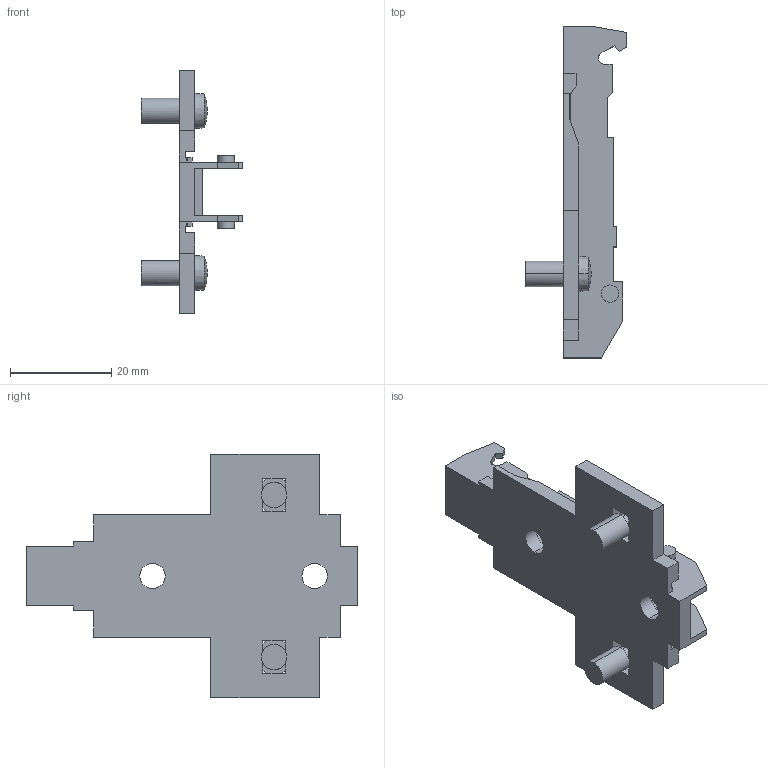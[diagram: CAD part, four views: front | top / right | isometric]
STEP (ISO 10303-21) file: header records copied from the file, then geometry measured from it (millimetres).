
FILE_DESCRIPTION (( 'STEP AP214' ), '1' );
FILE_NAME ('1D_Kreuzmontageplatte 28_32_5mm_Dübel_kurz_2.step', '2010-11-18T10:20:23', ( 'grass' ), ( '' ), 'SwSTEP 2.0', 'SolidWorks 2010', '' );
FILE_SCHEMA (( 'AUTOMOTIVE_DESIGN' ));
Length unit declared in the file: millimetre
Products named in the file (1): 1D_Kreuzmontageplatte 28_32_5mm_Dübel_kurz_2
Bounding box: 20 x 65.5 x 48 mm (x, y, z)
Volume: 6788.2 mm3; surface area: 7191.2 mm2
Topology: 1 solids, 1 shells, 126 faces, 388 edges, 250 vertices
Faces by surface type: plane 96, cylinder 22, sphere 4, cone 4
Entity records: 4374 total; most frequent: ORIENTED_EDGE 776, CARTESIAN_POINT 765, DIRECTION 722, EDGE_CURVE 388, LINE 308, VECTOR 308, VERTEX_POINT 250, AXIS2_PLACEMENT_3D 207
